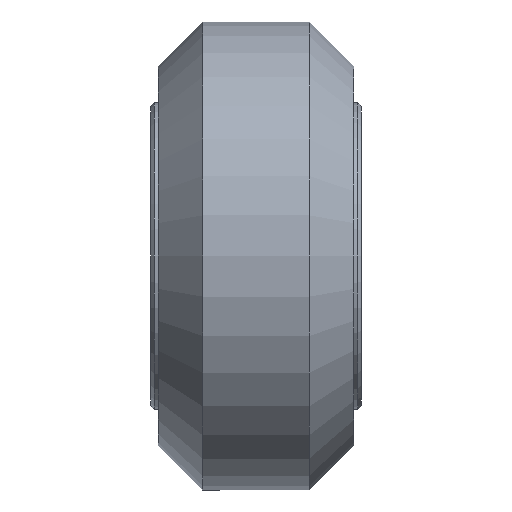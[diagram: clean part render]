
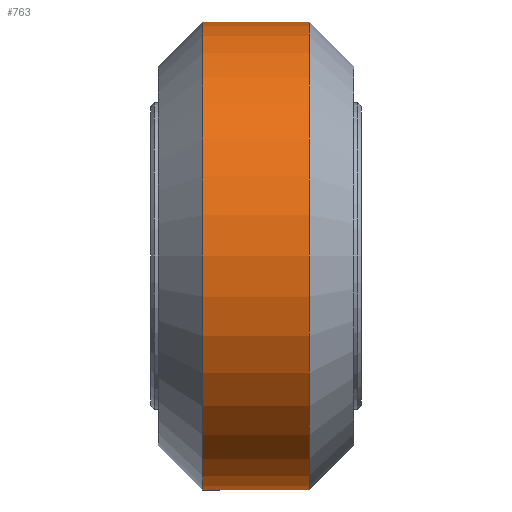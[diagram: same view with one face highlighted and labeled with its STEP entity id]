
A CAD part, front view. The second image highlights one B-rep face of the part: STEP entity #763.
In plain terms, the highlighted cylindrical face has radius 12.2 mm (diameter 24.4 mm), a partial arc.
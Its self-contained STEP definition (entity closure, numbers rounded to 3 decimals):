
#49 = CARTESIAN_POINT ( 'NONE',  ( -2.775, 0., 12.2 ) ) ;
#91 = VECTOR ( 'NONE', #689, 1000. ) ;
#130 = AXIS2_PLACEMENT_3D ( 'NONE', #990, #1159, #524 ) ;
#159 = VERTEX_POINT ( 'NONE', #908 ) ;
#183 = ORIENTED_EDGE ( 'NONE', *, *, #414, .T. ) ;
#194 = CARTESIAN_POINT ( 'NONE',  ( 0., 0., 0. ) ) ;
#196 = VERTEX_POINT ( 'NONE', #49 ) ;
#281 = FACE_OUTER_BOUND ( 'NONE', #567, .T. ) ;
#308 = VERTEX_POINT ( 'NONE', #738 ) ;
#348 = ORIENTED_EDGE ( 'NONE', *, *, #841, .F. ) ;
#358 = CARTESIAN_POINT ( 'NONE',  ( -2.775, 0., 0. ) ) ;
#376 = EDGE_CURVE ( 'NONE', #1169, #196, #756, .T. ) ;
#414 = EDGE_CURVE ( 'NONE', #308, #1169, #774, .T. ) ;
#421 = CARTESIAN_POINT ( 'NONE',  ( 0., 0., -12.2 ) ) ;
#445 = DIRECTION ( 'NONE',  ( 0., 0., 1. ) ) ;
#524 = DIRECTION ( 'NONE',  ( 0., 0., 1. ) ) ;
#536 = AXIS2_PLACEMENT_3D ( 'NONE', #194, #753, #840 ) ;
#556 = AXIS2_PLACEMENT_3D ( 'NONE', #358, #1190, #445 ) ;
#564 = EDGE_CURVE ( 'NONE', #159, #196, #874, .T. ) ;
#567 = EDGE_LOOP ( 'NONE', ( #348, #183, #864, #786 ) ) ;
#580 = CYLINDRICAL_SURFACE ( 'NONE', #536, 12.2 ) ;
#689 = DIRECTION ( 'NONE',  ( -1., 0., 0. ) ) ;
#738 = CARTESIAN_POINT ( 'NONE',  ( 2.775, 0., -12.2 ) ) ;
#753 = DIRECTION ( 'NONE',  ( -1., 0., 0. ) ) ;
#756 = LINE ( 'NONE', #811, #964 ) ;
#763 = ADVANCED_FACE ( 'NONE', ( #281 ), #580, .T. ) ;
#774 = CIRCLE ( 'NONE', #130, 12.2 ) ;
#786 = ORIENTED_EDGE ( 'NONE', *, *, #564, .F. ) ;
#806 = DIRECTION ( 'NONE',  ( -1., 0., 0. ) ) ;
#811 = CARTESIAN_POINT ( 'NONE',  ( 0., 0., 12.2 ) ) ;
#840 = DIRECTION ( 'NONE',  ( 0., 0., 1. ) ) ;
#841 = EDGE_CURVE ( 'NONE', #308, #159, #1158, .T. ) ;
#864 = ORIENTED_EDGE ( 'NONE', *, *, #376, .T. ) ;
#874 = CIRCLE ( 'NONE', #556, 12.2 ) ;
#908 = CARTESIAN_POINT ( 'NONE',  ( -2.775, 0., -12.2 ) ) ;
#964 = VECTOR ( 'NONE', #806, 1000. ) ;
#990 = CARTESIAN_POINT ( 'NONE',  ( 2.775, 0., 0. ) ) ;
#1132 = CARTESIAN_POINT ( 'NONE',  ( 2.775, 0., 12.2 ) ) ;
#1158 = LINE ( 'NONE', #421, #91 ) ;
#1159 = DIRECTION ( 'NONE',  ( -1., 0., 0. ) ) ;
#1169 = VERTEX_POINT ( 'NONE', #1132 ) ;
#1190 = DIRECTION ( 'NONE',  ( -1., 0., 0. ) ) ;
